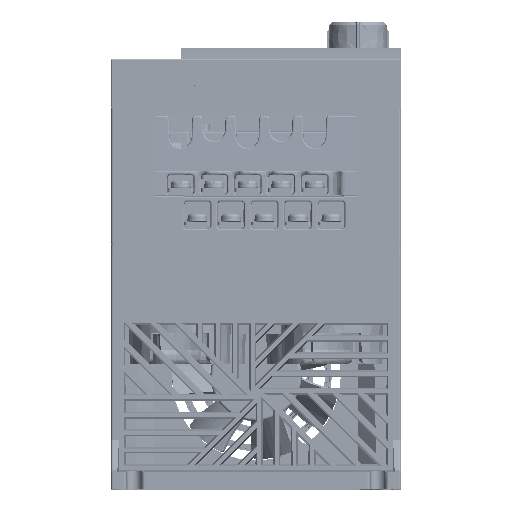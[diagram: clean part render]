
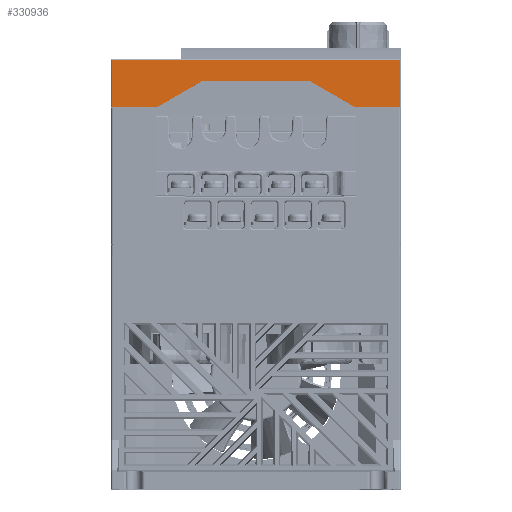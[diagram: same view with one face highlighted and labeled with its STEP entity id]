
A CAD part, top view. The second image highlights one B-rep face of the part: STEP entity #330936.
In plain terms, the highlighted planar face has unit normal (0, 0, 1).
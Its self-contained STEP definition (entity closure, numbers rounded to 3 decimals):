
#313164=DIRECTION('',(-1.,0.,0.));
#313165=VECTOR('',#313164,94.6);
#313166=CARTESIAN_POINT('',(47.3,140.8,115.));
#313167=LINE('',#313166,#313165);
#313171=DIRECTION('',(0.,1.,0.));
#313172=VECTOR('',#313171,15.5);
#313173=CARTESIAN_POINT('',(47.3,125.3,115.));
#313174=LINE('',#313173,#313172);
#313178=DIRECTION('',(0.866,-0.5,0.));
#313179=VECTOR('',#313178,17.4);
#313180=CARTESIAN_POINT('',(17.412,134.,115.));
#313181=LINE('',#313180,#313179);
#313185=DIRECTION('',(-0.866,-0.5,0.));
#313186=VECTOR('',#313185,17.4);
#313187=CARTESIAN_POINT('',(-17.412,134.,115.));
#313188=LINE('',#313187,#313186);
#313192=DIRECTION('',(-1.,0.,0.));
#313193=VECTOR('',#313192,14.82);
#313194=CARTESIAN_POINT('',(-32.48,125.3,115.));
#313195=LINE('',#313194,#313193);
#313199=DIRECTION('',(0.,1.,0.));
#313200=VECTOR('',#313199,15.5);
#313201=CARTESIAN_POINT('',(-47.3,125.3,115.));
#313202=LINE('',#313201,#313200);
#313242=DIRECTION('',(1.,0.,0.));
#313243=VECTOR('',#313242,14.82);
#313244=CARTESIAN_POINT('',(32.48,125.3,115.));
#313245=LINE('',#313244,#313243);
#318655=DIRECTION('',(1.,0.,0.));
#318656=VECTOR('',#318655,34.823);
#318657=CARTESIAN_POINT('',(-17.412,134.,115.));
#318658=LINE('',#318657,#318656);
#325185=CARTESIAN_POINT('',(-17.412,134.,115.));
#325186=CARTESIAN_POINT('',(-32.48,125.3,115.));
#325187=VERTEX_POINT('',#325185);
#325188=VERTEX_POINT('',#325186);
#325189=CARTESIAN_POINT('',(17.412,134.,115.));
#325190=CARTESIAN_POINT('',(32.48,125.3,115.));
#325191=VERTEX_POINT('',#325189);
#325192=VERTEX_POINT('',#325190);
#328236=CARTESIAN_POINT('',(47.3,140.8,115.));
#328237=CARTESIAN_POINT('',(-47.3,140.8,115.));
#328238=VERTEX_POINT('',#328236);
#328239=VERTEX_POINT('',#328237);
#328246=CARTESIAN_POINT('',(-47.3,125.3,115.));
#328248=VERTEX_POINT('',#328246);
#328251=CARTESIAN_POINT('',(47.3,125.3,115.));
#328253=VERTEX_POINT('',#328251);
#330914=CARTESIAN_POINT('',(-47.5,0.,115.));
#330915=DIRECTION('',(0.,0.,1.));
#330916=DIRECTION('',(1.,0.,0.));
#330917=AXIS2_PLACEMENT_3D('',#330914,#330915,#330916);
#330918=PLANE('',#330917);
#330919=ORIENTED_EDGE('',*,*,#330907,.F.);
#330921=ORIENTED_EDGE('',*,*,#330920,.F.);
#330923=ORIENTED_EDGE('',*,*,#330922,.F.);
#330925=ORIENTED_EDGE('',*,*,#330924,.F.);
#330927=ORIENTED_EDGE('',*,*,#330926,.F.);
#330929=ORIENTED_EDGE('',*,*,#330928,.T.);
#330931=ORIENTED_EDGE('',*,*,#330930,.T.);
#330933=ORIENTED_EDGE('',*,*,#330932,.T.);
#330934=EDGE_LOOP('',(#330919,#330921,#330923,#330925,#330927,#330929,#330931,
#330933));
#330935=FACE_OUTER_BOUND('',#330934,.F.);
#330936=ADVANCED_FACE('',(#330935),#330918,.T.);
#330907=EDGE_CURVE('',#328238,#328239,#313167,.T.);
#330920=EDGE_CURVE('',#328253,#328238,#313174,.T.);
#330922=EDGE_CURVE('',#325192,#328253,#313245,.T.);
#330924=EDGE_CURVE('',#325191,#325192,#313181,.T.);
#330926=EDGE_CURVE('',#325187,#325191,#318658,.T.);
#330928=EDGE_CURVE('',#325187,#325188,#313188,.T.);
#330930=EDGE_CURVE('',#325188,#328248,#313195,.T.);
#330932=EDGE_CURVE('',#328248,#328239,#313202,.T.);
